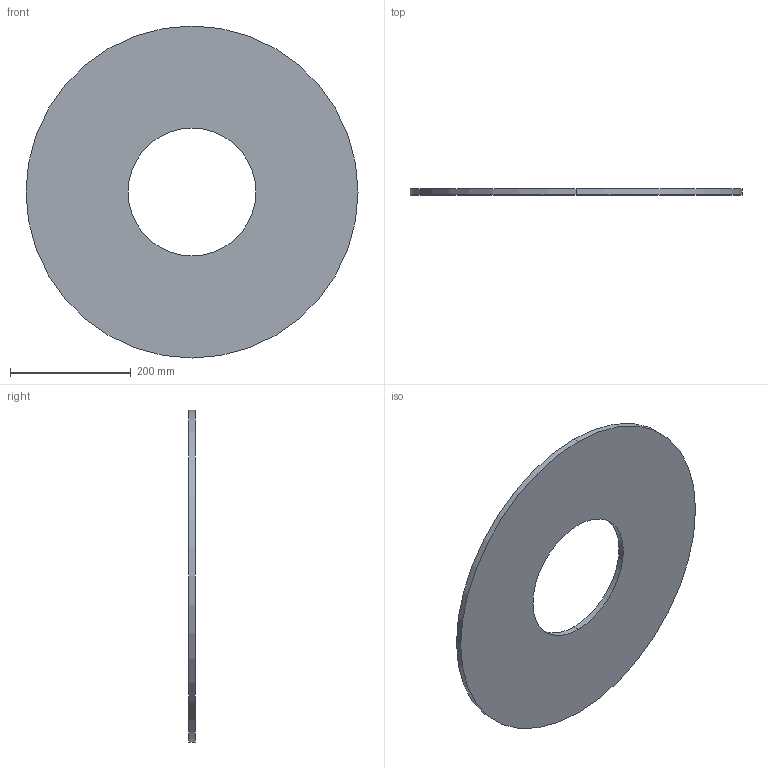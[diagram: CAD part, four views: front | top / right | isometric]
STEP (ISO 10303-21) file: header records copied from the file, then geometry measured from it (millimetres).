
FILE_DESCRIPTION (( 'STEP AP203' ), '1' );
FILE_NAME ('3D_R152_DN1168.3_17305285.STEP', '2024-08-13T07:59:24', ( '' ), ( '' ), 'SwSTEP 2.0', 'SolidWorks 2024', '' );
FILE_SCHEMA (( 'CONFIG_CONTROL_DESIGN' ));
Length unit declared in the file: millimetre
Products named in the file (1): 3D_R152_DN1168.3_17305285
Bounding box: 550.6 x 10 x 550.6 mm (x, y, z)
Volume: 2028026.5 mm3; surface area: 429563.1 mm2
Topology: 1 solids, 1 shells, 6 faces, 12 edges, 8 vertices
Faces by surface type: cylinder 4, plane 2
Entity records: 245 total; most frequent: DIRECTION 34, CARTESIAN_POINT 27, ORIENTED_EDGE 24, AXIS2_PLACEMENT_3D 15, EDGE_CURVE 12, CIRCLE 8, PERSON_AND_ORGANIZATION 8, VERTEX_POINT 8
